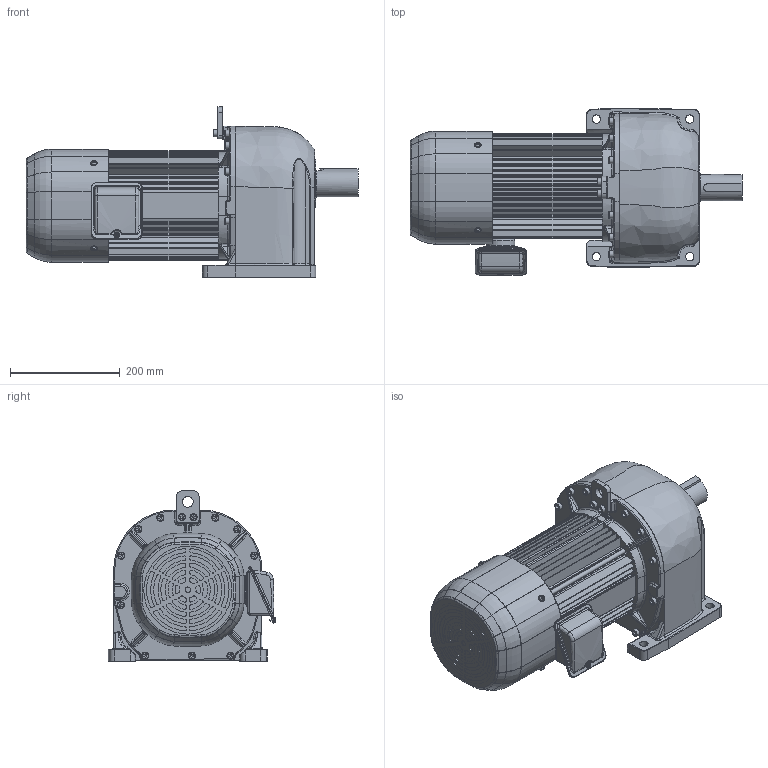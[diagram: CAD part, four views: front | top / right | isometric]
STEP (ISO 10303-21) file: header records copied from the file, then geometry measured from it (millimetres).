
FILE_DESCRIPTION( ( 'Unknown' ), '1' );
FILE_NAME( 'X:/gear/gm/3D-WEB/IE3/DP/ﾊﾟｰﾂ/完成品/dpb_22_40-50.stp', 'Unknown', ( 'Unknown' ), ( 'Unknown' ), 'PSStep 14.0', 'Unknown', ' ' );
FILE_SCHEMA( ( 'AUTOMOTIVE_DESIGN { 1 0 10303 214 1 1 1 1 }' ) );
Length unit declared in the file: millimetre
Products named in the file (7): P164381_ｷﾞﾔｹｰｽ(L48)
Bounding box: 604 x 305.35 x 310 mm (x, y, z)
Volume: 11844337.5 mm3; surface area: 1404283.7 mm2
Topology: 28 solids, 40 shells, 1894 faces, 4674 edges, 2947 vertices
Faces by surface type: cylinder 815, plane 721, torus 133, bspline 121, cone 92, sphere 12
Full cylindrical faces by diameter (mm): 3.8 x2, 4.2 x8, 4.8 x1, 5 x4, 5.5 x4, 5.6 x1, 5.8 x4, 6 x8, 6.647 x9, 6.8 x9, 7 x1, 8 x17, 8.2 x1, 9 x15, 9.5 x4, 10 x15, 12 x6, 13 x15, 13.5 x2, 20 x1, 23 x1, 25 x3, 28.6 x1, 48 x3, 50 x2, 50.1 x1, 51.2 x1, 55 x1, 65 x1, 68 x2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
Entity records: 85990 total; most frequent: CARTESIAN_POINT 26769, DIRECTION 9768, ORIENTED_EDGE 8560, EDGE_CURVE 4280, AXIS2_PLACEMENT_3D 3880, VERTEX_POINT 2832, EDGE_LOOP 2298, FACE_OUTER_BOUND 2071
